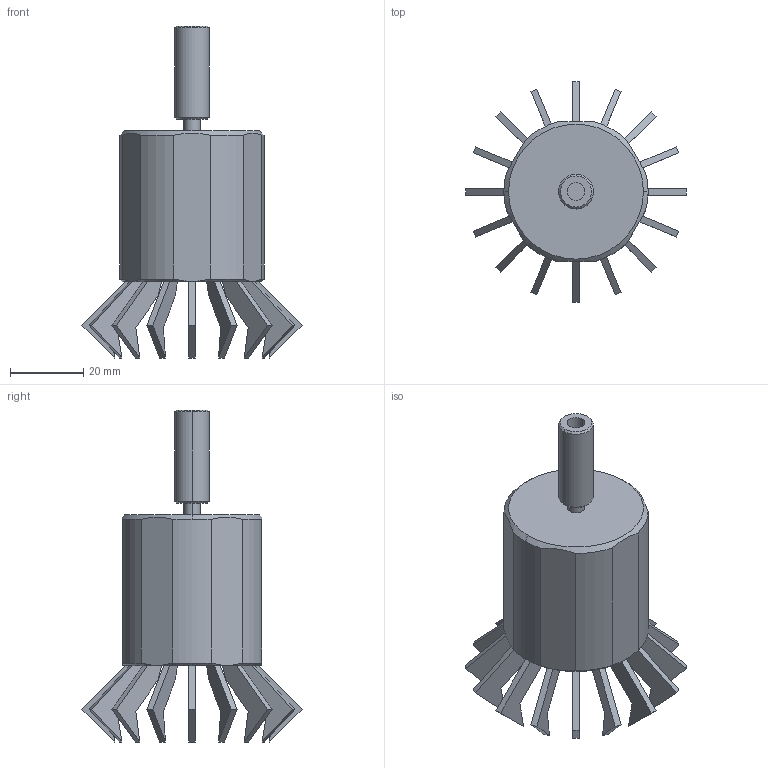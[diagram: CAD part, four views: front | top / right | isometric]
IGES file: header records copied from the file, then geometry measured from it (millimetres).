
Global section: file name: No Iges File Name specified; native system: Autodesk Inventor 2010; preprocessor: AutoDesk Inventor Iges Exporter R2010; author: mlampen; date: 20170419.142947; units: inch
Bounding box: 60.11 x 60.11 x 90.63 mm (x, y, z)
Volume: 30475.9 mm3; surface area: 30382.5 mm2
Topology: 23 solids, 23 shells, 509 faces, 1370 edges, 910 vertices
Faces by surface type: plane 305, cylinder 110, revolution 80, cone 8, torus 6
